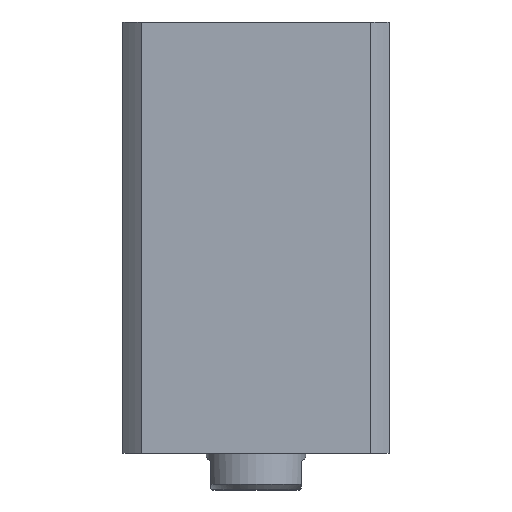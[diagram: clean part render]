
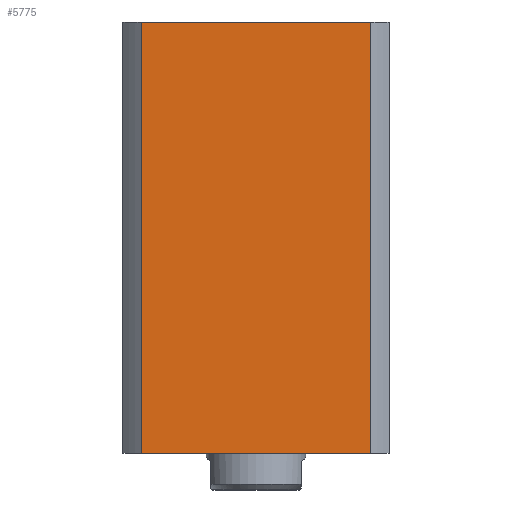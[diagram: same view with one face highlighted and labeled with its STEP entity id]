
A CAD part, front view. The second image highlights one B-rep face of the part: STEP entity #5775.
In plain terms, the highlighted planar face has unit normal (0, -1, 0) as drawn and (0, 1, 0) by its records, which use the part's own axes.
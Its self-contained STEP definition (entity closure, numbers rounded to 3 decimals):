
#245 = LINE ( 'NONE', #4795, #7536 ) ;
#853 = VERTEX_POINT ( 'NONE', #15312 ) ;
#1129 = DIRECTION ( 'NONE',  ( 0., -1., 0. ) ) ;
#1551 = FACE_OUTER_BOUND ( 'NONE', #1994, .T. ) ;
#1719 = VERTEX_POINT ( 'NONE', #14459 ) ;
#1775 = EDGE_CURVE ( 'NONE', #12290, #1719, #13882, .T. ) ;
#1994 = EDGE_LOOP ( 'NONE', ( #9486, #16232, #9176, #16981 ) ) ;
#3437 = CARTESIAN_POINT ( 'NONE',  ( -40.435, 47., 152. ) ) ;
#3484 = AXIS2_PLACEMENT_3D ( 'NONE', #6581, #1129, #10740 ) ;
#3810 = PLANE ( 'NONE',  #3484 ) ;
#4795 = CARTESIAN_POINT ( 'NONE',  ( -47., 47., 152. ) ) ;
#5775 = ADVANCED_FACE ( 'NONE', ( #1551 ), #3810, .F. ) ;
#6026 = LINE ( 'NONE', #9795, #17442 ) ;
#6581 = CARTESIAN_POINT ( 'NONE',  ( -47., 47., 152. ) ) ;
#7010 = DIRECTION ( 'NONE',  ( 0., 0., -1. ) ) ;
#7325 = EDGE_CURVE ( 'NONE', #15558, #1719, #6026, .T. ) ;
#7536 = VECTOR ( 'NONE', #14449, 1000. ) ;
#9176 = ORIENTED_EDGE ( 'NONE', *, *, #7325, .F. ) ;
#9486 = ORIENTED_EDGE ( 'NONE', *, *, #17182, .F. ) ;
#9795 = CARTESIAN_POINT ( 'NONE',  ( -40.435, 47., -2848. ) ) ;
#10740 = DIRECTION ( 'NONE',  ( 0., 0., -1. ) ) ;
#12241 = EDGE_CURVE ( 'NONE', #853, #15558, #245, .T. ) ;
#12290 = VERTEX_POINT ( 'NONE', #15875 ) ;
#12932 = LINE ( 'NONE', #13836, #16135 ) ;
#13085 = CARTESIAN_POINT ( 'NONE',  ( -47., 47., 0. ) ) ;
#13208 = DIRECTION ( 'NONE',  ( -1., 0., 0. ) ) ;
#13836 = CARTESIAN_POINT ( 'NONE',  ( 40.435, 47., -2848. ) ) ;
#13882 = LINE ( 'NONE', #13085, #17513 ) ;
#14449 = DIRECTION ( 'NONE',  ( -1., 0., 0. ) ) ;
#14459 = CARTESIAN_POINT ( 'NONE',  ( -40.435, 47., 0. ) ) ;
#15208 = DIRECTION ( 'NONE',  ( 0., 0., 1. ) ) ;
#15312 = CARTESIAN_POINT ( 'NONE',  ( 40.435, 47., 152. ) ) ;
#15558 = VERTEX_POINT ( 'NONE', #3437 ) ;
#15875 = CARTESIAN_POINT ( 'NONE',  ( 40.435, 47., 0. ) ) ;
#16135 = VECTOR ( 'NONE', #15208, 1000. ) ;
#16232 = ORIENTED_EDGE ( 'NONE', *, *, #1775, .T. ) ;
#16981 = ORIENTED_EDGE ( 'NONE', *, *, #12241, .F. ) ;
#17182 = EDGE_CURVE ( 'NONE', #12290, #853, #12932, .T. ) ;
#17442 = VECTOR ( 'NONE', #7010, 1000. ) ;
#17513 = VECTOR ( 'NONE', #13208, 1000. ) ;
